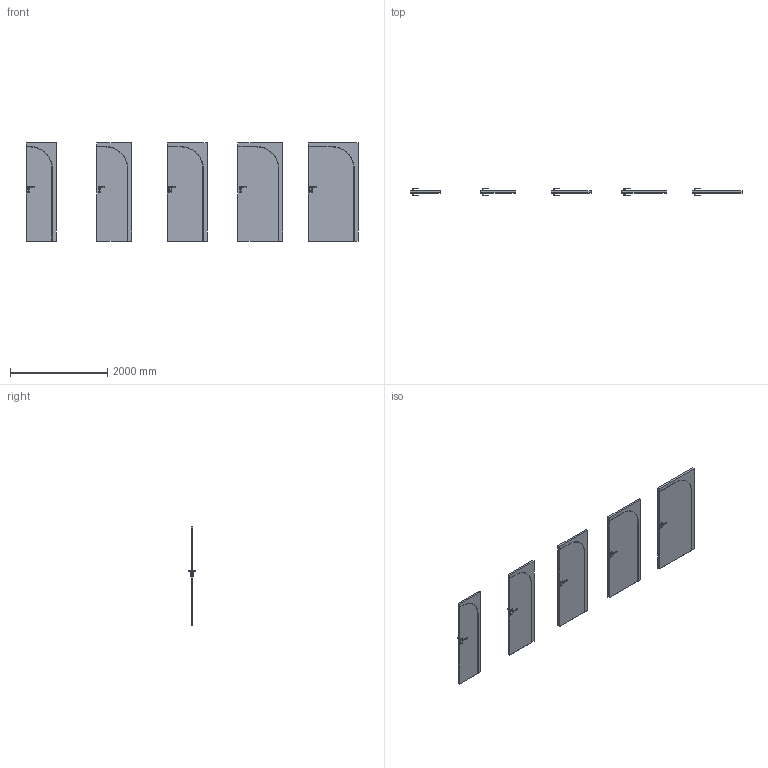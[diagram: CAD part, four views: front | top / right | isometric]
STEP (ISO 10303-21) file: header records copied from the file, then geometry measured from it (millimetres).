
FILE_DESCRIPTION(/* description */ (''),/* implementation_level */ '2;1');
FILE_NAME(/* name */ '049850_A_1-Skrzydło ART DECO model 6_ polska norma _PN__ bezprzylgowe.stp',/* time_stamp */ '2024-09-12T13:41:48+02:00',/* author */ (''),/* organization */ (''),/* preprocessor_version */ 'ST-DEVELOPER v16',/* originating_system */ 'SIEMENS PLM Software NX 11.0',/* authorisation */ '');
FILE_SCHEMA (('AUTOMOTIVE_DESIGN { 1 0 10303 214 3 1 1 1 }'));
Length unit declared in the file: millimetre
Products named in the file (1): msmo358C2A05p63a
Bounding box: 6818 x 153.13 x 2017 mm (x, y, z)
Volume: 324620185.9 mm3; surface area: 17897216.2 mm2
Topology: 25 solids, 25 shells, 1080 faces, 2570 edges, 1440 vertices
Faces by surface type: plane 420, cylinder 300, bspline 160, sphere 140, torus 40, cone 20
Entity records: 35549 total; most frequent: CARTESIAN_POINT 11971, ORIENTED_EDGE 4860, DIRECTION 4812, EDGE_CURVE 2430, AXIS2_PLACEMENT_3D 1761, VERTEX_POINT 1440, LINE 1290, VECTOR 1290
